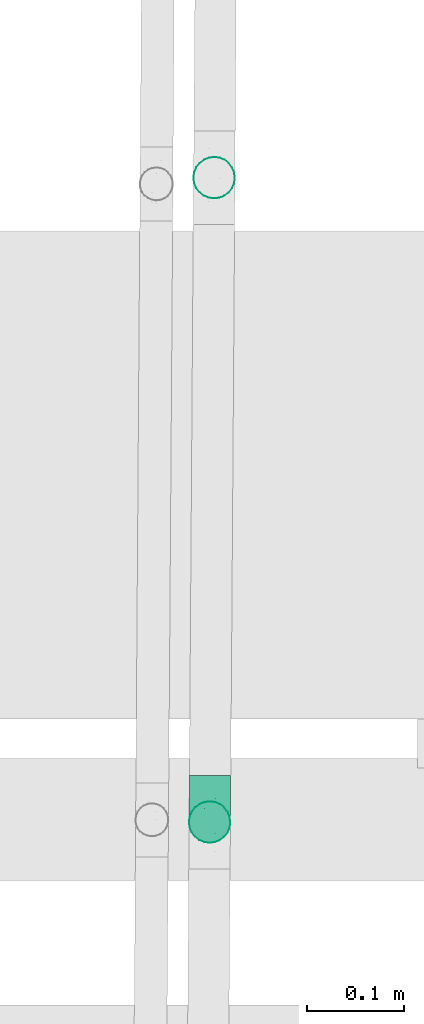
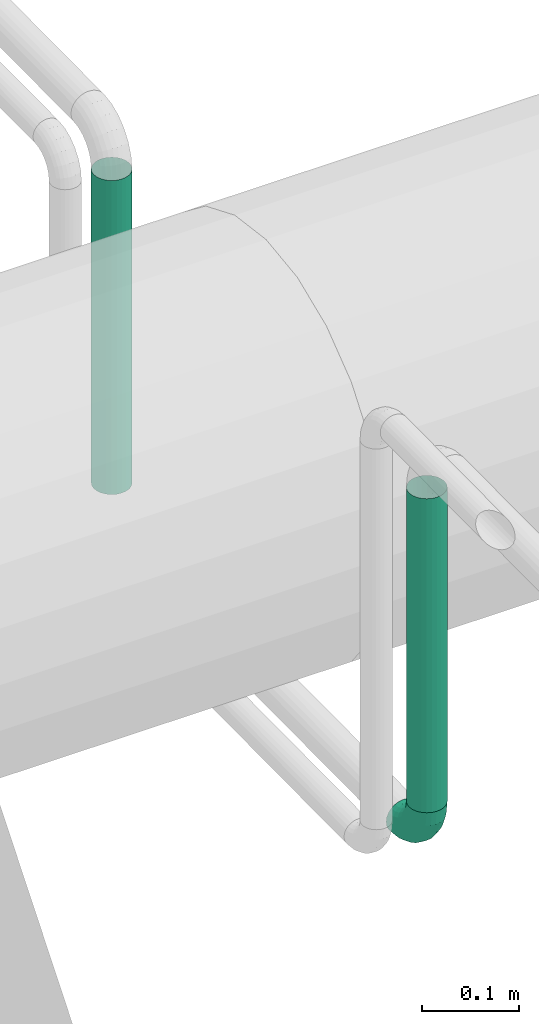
# One storey, part 169 of 374: 3 flow segments.
"""IFC2X3 building model written with IfcOpenShell, lengths in metres."""

from ifc_helpers import new_model, si_unit, direction, origin, place, context, subcontext, project, spatial, open_shell, surface_model, source, transform, mapped, element, save


model = new_model("IFC2X3")

# Units and contexts
model_context = context("Model", 3, precision=1e-05, world=origin(), true_north=direction((-0.4480736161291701, 0.8939966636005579)))
body_context = subcontext(model_context, "Body", "Model", "MODEL_VIEW")
ifc_project = project(units=[si_unit("LENGTHUNIT", "METRE"), si_unit("AREAUNIT", "SQUARE_METRE"), si_unit("VOLUMEUNIT", "CUBIC_METRE"), si_unit("PLANEANGLEUNIT", "RADIAN"), si_unit("THERMODYNAMICTEMPERATUREUNIT", "KELVIN"), si_unit("MASSUNIT", "GRAM", prefix="KILO"), si_unit("TIMEUNIT", "SECOND")], contexts=[model_context])

# Site, building, storey
site_placement = place(None, origin())
site = spatial("IfcSite", under=ifc_project, at=site_placement, Name="Site 1", CompositionType="ELEMENT")
building_placement = place(site_placement, origin())
building = spatial("IfcBuilding", under=site, at=building_placement, Name="Undefined", CompositionType="ELEMENT")
storey_placement = place(building_placement, origin())
storey = spatial("IfcBuildingStorey", under=building, at=storey_placement, Name="Rez de chauss\x8ee", CompositionType="ELEMENT", Elevation=0.0)

# Flow segments
shared_shape_1 = source(origin(), body_context, "Body", "SurfaceModel", [
    surface_model("IfcFaceBasedSurfaceModel", [(0.01806482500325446, 7.105427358e-15, 0.0), (0.017970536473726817, 0.005533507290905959, 0.0), (9.428852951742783e-05, 0.005533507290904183, 1.776356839e-15), (0.0, 0.0, 0.0), (-0.017172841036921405, 0.00613233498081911, -0.004587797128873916), (-0.01744928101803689, 0.0006051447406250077, -0.004636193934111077), (-0.03265412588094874, 0.007289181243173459, -0.013450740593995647), (-0.0330938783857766, 0.0017741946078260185, -0.013592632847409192), (-0.045294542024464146, 0.008925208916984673, -0.02598483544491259), (-0.045867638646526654, 0.0034274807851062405, -0.02625895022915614), (-0.054232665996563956, 0.010928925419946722, -0.041335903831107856), (-0.05490005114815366, 0.005452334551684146, -0.04177195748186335), (-0.05885937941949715, 0.013163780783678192, -0.05845779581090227), (-0.059575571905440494, 0.007710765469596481, -0.05907446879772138), (0.01769409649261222, 0.010875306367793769, -0.0014203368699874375), (0.00037072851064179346, 0.010875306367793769, -0.0014203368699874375), (-0.016362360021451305, 0.011455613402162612, -0.005866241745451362), (-0.03136483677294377, 0.012576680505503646, -0.014455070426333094), (-0.04361430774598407, 0.014162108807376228, -0.026601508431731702), (-0.05227599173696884, 0.016103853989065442, -0.0414777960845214), (-0.05675960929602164, 0.018269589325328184, -0.05807013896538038), (0.017254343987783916, 0.015661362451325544, -0.0041642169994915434), (0.0008104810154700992, 0.015661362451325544, -0.004164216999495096), (-0.01507307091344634, 0.016212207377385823, -0.008384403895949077), (-0.029313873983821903, 0.01727635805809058, -0.016537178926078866), (-0.04094144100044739, 0.01878129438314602, -0.02806694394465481), (-0.049163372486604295, 0.02062445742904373, -0.042187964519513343), (-0.05341935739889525, 0.02268023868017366, -0.05793791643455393), (0.016681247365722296, 0.01956551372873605, -0.008044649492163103), (0.001383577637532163, 0.01956551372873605, -0.008044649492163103), (-0.01339283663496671, 0.020077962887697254, -0.011970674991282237), (-0.026641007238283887, 0.021067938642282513, -0.01955517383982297), (-0.03745809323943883, 0.02246797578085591, -0.03028127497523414), (-0.04510692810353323, 0.0241826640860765, -0.04341801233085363), (-0.04906625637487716, 0.026095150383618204, -0.05807013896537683), (0.016013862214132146, 0.022321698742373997, -0.012797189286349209), (0.0020509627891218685, 0.022321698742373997, -0.012797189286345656), (-0.011436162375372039, 0.02278943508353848, -0.016380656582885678), (-0.023528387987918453, 0.02369303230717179, -0.023303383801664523), (-0.03340164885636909, 0.024970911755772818, -0.03309359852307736), (-0.040383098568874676, 0.026535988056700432, -0.04508411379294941), (-0.04399696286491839, 0.028281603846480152, -0.05845779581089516), (0.015297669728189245, 0.023742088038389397, -0.018097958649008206), (0.00276715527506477, 0.023742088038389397, -0.018097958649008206), (-0.009336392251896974, 0.024161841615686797, -0.021313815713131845), (-0.02018813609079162, 0.02497274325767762, -0.0275263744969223), (-0.029048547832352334, 0.02611953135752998, -0.03631225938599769), (-0.03531380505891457, 0.027524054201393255, -0.04707272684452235), (-0.0385569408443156, 0.02909059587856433, -0.05907446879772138), (0.014581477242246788, 0.023729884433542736, -0.02358571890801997), (0.0034833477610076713, 0.023729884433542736, -0.02358571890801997), (-0.007236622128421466, 0.024101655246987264, -0.026433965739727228), (-0.016847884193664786, 0.02481986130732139, -0.03193635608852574), (-0.02469544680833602, 0.02583555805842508, -0.03971791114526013), (-0.0302445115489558, 0.027079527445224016, -0.04924833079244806), (-0.03311691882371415, 0.02846699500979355, -0.059878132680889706), (0.013914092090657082, 0.02228591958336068, -0.02888648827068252), (0.004150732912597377, 0.022285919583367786, -0.028886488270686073), (-0.005279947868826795, 0.022612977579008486, -0.031392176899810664), (-0.013735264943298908, 0.023244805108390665, -0.03623279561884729), (-0.020639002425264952, 0.02413834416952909, -0.04307846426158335), (-0.025520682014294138, 0.025232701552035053, -0.051462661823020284), (-0.028047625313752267, 0.026453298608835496, -0.060814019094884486), (0.013340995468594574, 0.01950859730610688, -0.03363902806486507), (0.0047238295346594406, 0.01950859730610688, -0.033639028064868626), (-0.0035997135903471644, 0.019797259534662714, -0.035850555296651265), (-0.011062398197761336, 0.0203549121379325, -0.04012289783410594), (-0.017155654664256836, 0.021143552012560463, -0.04616490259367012), (-0.02146423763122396, 0.022109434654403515, -0.05356481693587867), (-0.02369452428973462, 0.023186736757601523, -0.06181834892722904), (0.012901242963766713, 0.015587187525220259, -0.037519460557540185), (0.005163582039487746, 0.015587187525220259, -0.03751946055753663), (-0.0023104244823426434, 0.015846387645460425, -0.03950526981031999), (-0.009011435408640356, 0.016347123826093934, -0.043341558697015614), (-0.01448278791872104, 0.017055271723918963, -0.048766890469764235), (-0.018351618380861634, 0.017922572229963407, -0.05541153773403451), (-0.02035427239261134, 0.018889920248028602, -0.06282267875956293), (0.012624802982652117, 0.010788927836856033, -0.040263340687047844), (0.005440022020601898, 0.010788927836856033, -0.0402633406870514), (-0.0014999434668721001, 0.011029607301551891, -0.04210725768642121), (-0.007722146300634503, 0.01149456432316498, -0.045669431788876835), (-0.012802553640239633, 0.012152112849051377, -0.05070710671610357), (-0.0163949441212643, 0.012957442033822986, -0.056876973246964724), (-0.018254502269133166, 0.013855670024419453, -0.06375856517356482), (0.012530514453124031, 0.005440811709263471, -0.041683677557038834), (0.005534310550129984, 0.0054408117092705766, -0.041683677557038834), (-0.0012235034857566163, 0.005675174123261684, -0.04347919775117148), (-0.007282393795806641, 0.006127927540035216, -0.046947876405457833), (-0.012229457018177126, 0.0067682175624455, -0.05185332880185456), (-0.015727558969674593, 0.007552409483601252, -0.05786125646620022), (-0.01753830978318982, 0.008427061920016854, -0.0645622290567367), (0.012624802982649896, -9.26955816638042e-05, -0.04168367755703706), (0.005440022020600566, -9.269558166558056e-05, -0.04168367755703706), (-0.0014999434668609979, 0.00014798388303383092, -0.0435275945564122), (-0.007722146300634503, 0.0006129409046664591, -0.047089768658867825), (-0.012802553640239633, 0.001270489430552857, -0.05212744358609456), (-0.0163949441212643, 0.002075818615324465, -0.058297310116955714), (-0.018254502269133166, 0.0029740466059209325, -0.06517890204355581), (0.012901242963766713, -0.005434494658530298, -0.0402633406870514), (0.005163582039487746, -0.005434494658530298, -0.040263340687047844), (-0.0023104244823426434, -0.005175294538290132, -0.0422491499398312), (-0.009011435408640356, -0.004674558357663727, -0.046085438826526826), (-0.01448278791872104, -0.0039664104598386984, -0.051510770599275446), (-0.018351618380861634, -0.0030991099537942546, -0.05815541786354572), (-0.02035427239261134, -0.0021317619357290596, -0.06556655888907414), (0.013340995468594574, -0.010220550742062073, -0.03751946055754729), (0.0047238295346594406, -0.010220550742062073, -0.03751946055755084), (-0.0035997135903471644, -0.009931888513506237, -0.03973098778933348), (-0.011062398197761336, -0.009374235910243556, -0.04400333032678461), (-0.017155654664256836, -0.00858559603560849, -0.05004533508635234), (-0.02146423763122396, -0.007619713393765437, -0.057445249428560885), (-0.02369452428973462, -0.006542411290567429, -0.06569878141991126), (0.013914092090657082, -0.01412470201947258, -0.03363902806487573), (0.004150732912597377, -0.014124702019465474, -0.033639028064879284), (-0.005279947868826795, -0.013797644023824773, -0.036144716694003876), (-0.013735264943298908, -0.013165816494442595, -0.0409853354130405), (-0.020639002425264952, -0.012272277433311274, -0.04783100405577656), (-0.025520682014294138, -0.011177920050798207, -0.05621520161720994), (-0.028047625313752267, -0.009957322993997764, -0.0655665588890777), (0.014581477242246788, -0.01688088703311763, -0.028886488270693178), (0.0034833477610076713, -0.01688088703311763, -0.028886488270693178), (-0.007236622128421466, -0.016509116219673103, -0.031734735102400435), (-0.016847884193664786, -0.015790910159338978, -0.03723712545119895), (-0.02469544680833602, -0.014775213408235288, -0.04501868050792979), (-0.0302445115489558, -0.01353124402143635, -0.054549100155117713), (-0.03311691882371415, -0.012143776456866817, -0.06517890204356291), (0.015297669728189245, -0.01830127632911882, -0.02358571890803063), (0.00276715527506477, -0.01830127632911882, -0.02358571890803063), (-0.009336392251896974, -0.01788152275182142, -0.026801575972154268), (-0.02018813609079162, -0.017070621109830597, -0.033014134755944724), (-0.029048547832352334, -0.01592383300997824, -0.04180001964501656), (-0.03531380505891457, -0.014519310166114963, -0.05256048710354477), (-0.0385569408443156, -0.012952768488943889, -0.06456222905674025), (0.016013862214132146, -0.01828907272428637, -0.018097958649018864), (0.0020509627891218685, -0.01828907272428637, -0.018097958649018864), (-0.011436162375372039, -0.01782133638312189, -0.021681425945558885), (-0.023528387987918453, -0.016917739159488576, -0.02860415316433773), (-0.03340164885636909, -0.01563985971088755, -0.038394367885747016), (-0.040383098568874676, -0.014074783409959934, -0.05038488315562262), (-0.04399696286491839, -0.012329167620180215, -0.06375856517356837), (0.016681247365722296, -0.01684510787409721, -0.012797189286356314), (0.001383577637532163, -0.01684510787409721, -0.012797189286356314), (-0.01339283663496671, -0.016332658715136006, -0.01672321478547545), (-0.026641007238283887, -0.015342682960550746, -0.02430771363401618), (-0.03745809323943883, -0.01394264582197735, -0.03503381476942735), (-0.04510692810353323, -0.01222795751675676, -0.04817055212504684), (-0.04906625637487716, -0.010315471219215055, -0.06282267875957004), (0.017254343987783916, -0.014067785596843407, -0.008044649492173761), (0.0008104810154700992, -0.014067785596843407, -0.008044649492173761), (-0.01507307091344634, -0.013516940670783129, -0.012264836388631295), (-0.029313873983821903, -0.012452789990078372, -0.020417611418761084), (-0.04094144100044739, -0.010947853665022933, -0.03194737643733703), (-0.049163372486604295, -0.009104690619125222, -0.04606839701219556), (-0.05341935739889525, -0.007048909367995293, -0.06181834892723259), (0.01769409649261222, -0.010146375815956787, -0.004164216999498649), (0.00037072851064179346, -0.010146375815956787, -0.004164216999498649), (-0.016362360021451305, -0.009566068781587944, -0.008610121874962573), (-0.03136483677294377, -0.008445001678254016, -0.017198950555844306), (-0.04361430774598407, -0.006859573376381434, -0.029345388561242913), (-0.05227599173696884, -0.00491782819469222, -0.04422167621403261), (-0.05675960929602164, -0.002752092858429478, -0.060814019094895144), (0.017970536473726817, -0.0053481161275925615, -0.0014203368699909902), (9.428852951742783e-05, -0.0053481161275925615, -0.0014203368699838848), (-0.017172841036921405, -0.004749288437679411, -0.006008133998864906), (-0.03265412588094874, -0.0035924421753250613, -0.014871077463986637), (-0.045294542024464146, -0.001956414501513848, -0.02740517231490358), (-0.05423266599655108, 4.730200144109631e-05, -0.042756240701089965), (-0.05885937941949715, 0.002282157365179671, -0.05987813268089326)], [open_shell([[[0, 1, 2, 3]], [[3, 2, 4, 5]], [[5, 4, 6, 7]], [[7, 6, 8, 9]], [[9, 8, 10, 11]], [[11, 10, 12, 13]], [[1, 14, 15, 2]], [[2, 15, 16, 4]], [[4, 16, 17, 6]], [[6, 17, 18, 8]], [[8, 18, 19, 10]], [[10, 19, 20, 12]], [[14, 21, 22, 15]], [[15, 22, 23, 16]], [[16, 23, 24, 17]], [[17, 24, 25, 18]], [[18, 25, 26, 19]], [[19, 26, 27, 20]], [[21, 28, 29, 22]], [[22, 29, 30, 23]], [[23, 30, 31, 24]], [[24, 31, 32, 25]], [[25, 32, 33, 26]], [[26, 33, 34, 27]], [[28, 35, 36, 29]], [[29, 36, 37, 30]], [[30, 37, 38, 31]], [[31, 38, 39, 32]], [[32, 39, 40, 33]], [[33, 40, 41, 34]], [[35, 42, 43, 36]], [[36, 43, 44, 37]], [[37, 44, 45, 38]], [[38, 45, 46, 39]], [[39, 46, 47, 40]], [[40, 47, 48, 41]], [[42, 49, 50, 43]], [[43, 50, 51, 44]], [[44, 51, 52, 45]], [[45, 52, 53, 46]], [[46, 53, 54, 47]], [[47, 54, 55, 48]], [[49, 56, 57, 50]], [[50, 57, 58, 51]], [[51, 58, 59, 52]], [[52, 59, 60, 53]], [[53, 60, 61, 54]], [[54, 61, 62, 55]], [[56, 63, 64, 57]], [[57, 64, 65, 58]], [[58, 65, 66, 59]], [[59, 66, 67, 60]], [[60, 67, 68, 61]], [[61, 68, 69, 62]], [[63, 70, 71, 64]], [[64, 71, 72, 65]], [[65, 72, 73, 66]], [[66, 73, 74, 67]], [[67, 74, 75, 68]], [[68, 75, 76, 69]], [[70, 77, 78, 71]], [[71, 78, 79, 72]], [[72, 79, 80, 73]], [[73, 80, 81, 74]], [[74, 81, 82, 75]], [[75, 82, 83, 76]], [[77, 84, 85, 78]], [[78, 85, 86, 79]], [[79, 86, 87, 80]], [[80, 87, 88, 81]], [[81, 88, 89, 82]], [[82, 89, 90, 83]], [[84, 91, 92, 85]], [[85, 92, 93, 86]], [[86, 93, 94, 87]], [[87, 94, 95, 88]], [[88, 95, 96, 89]], [[89, 96, 97, 90]], [[91, 98, 99, 92]], [[92, 99, 100, 93]], [[93, 100, 101, 94]], [[94, 101, 102, 95]], [[95, 102, 103, 96]], [[96, 103, 104, 97]], [[98, 105, 106, 99]], [[99, 106, 107, 100]], [[100, 107, 108, 101]], [[101, 108, 109, 102]], [[102, 109, 110, 103]], [[103, 110, 111, 104]], [[105, 112, 113, 106]], [[106, 113, 114, 107]], [[107, 114, 115, 108]], [[108, 115, 116, 109]], [[109, 116, 117, 110]], [[110, 117, 118, 111]], [[112, 119, 120, 113]], [[113, 120, 121, 114]], [[114, 121, 122, 115]], [[115, 122, 123, 116]], [[116, 123, 124, 117]], [[117, 124, 125, 118]], [[119, 126, 127, 120]], [[120, 127, 128, 121]], [[121, 128, 129, 122]], [[122, 129, 130, 123]], [[123, 130, 131, 124]], [[124, 131, 132, 125]], [[126, 133, 134, 127]], [[127, 134, 135, 128]], [[128, 135, 136, 129]], [[129, 136, 137, 130]], [[130, 137, 138, 131]], [[131, 138, 139, 132]], [[133, 140, 141, 134]], [[134, 141, 142, 135]], [[135, 142, 143, 136]], [[136, 143, 144, 137]], [[137, 144, 145, 138]], [[138, 145, 146, 139]], [[140, 147, 148, 141]], [[141, 148, 149, 142]], [[142, 149, 150, 143]], [[143, 150, 151, 144]], [[144, 151, 152, 145]], [[145, 152, 153, 146]], [[147, 154, 155, 148]], [[148, 155, 156, 149]], [[149, 156, 157, 150]], [[150, 157, 158, 151]], [[151, 158, 159, 152]], [[152, 159, 160, 153]], [[154, 161, 162, 155]], [[155, 162, 163, 156]], [[156, 163, 164, 157]], [[157, 164, 165, 158]], [[158, 165, 166, 159]], [[159, 166, 167, 160]], [[161, 0, 3, 162]], [[162, 3, 5, 163]], [[163, 5, 7, 164]], [[164, 7, 9, 165]], [[165, 9, 11, 166]], [[166, 11, 13, 167]]])]),
])
flow_segment_1_placement = place(storey_placement, origin())
element("IfcFlowSegment", 1, at=flow_segment_1_placement, inside=storey, Name="Tube coudé", ObjectType="Tube coudé", context=body_context, shape_type="MappedRepresentation", body=[
    mapped(shared_shape_1, transform((52.92217814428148, 17.388728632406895, 3.493217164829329), x_axis=(0.006921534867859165, 0.991420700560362, -0.1305261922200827), y_axis=(0.991682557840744, 0.009970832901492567, 0.1283210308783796), z_axis=(0.12852158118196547, -0.13032872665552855, -0.9831056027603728))),
])
shared_shape_2 = source(origin(), body_context, "Body", "SurfaceModel", [
    surface_model("IfcFaceBasedSurfaceModel", [(0.0, 0.005534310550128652, 0.0), (0.0, 0.0, 0.0), (0.39708119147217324, 0.0, 7.105427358e-15), (0.39708119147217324, 0.005534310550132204, 0.0), (0.0, -0.00534573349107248, -0.0014323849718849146), (0.39708119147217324, -0.005345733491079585, -0.00143238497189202), (0.0, -0.010138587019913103, -0.004199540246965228), (0.39708119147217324, -0.010138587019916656, -0.004199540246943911), (0.0, -0.01405193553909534, -0.008112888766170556), (0.39708119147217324, -0.014051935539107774, -0.008112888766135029), (0.0, -0.016819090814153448, -0.012905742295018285), (0.39708119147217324, -0.016819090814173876, -0.012905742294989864), (0.0, -0.018251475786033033, -0.018251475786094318), (0.39708119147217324, -0.01825147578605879, -0.01825147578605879), (0.0, -0.0182514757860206, -0.02378578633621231), (0.39708119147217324, -0.01825147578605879, -0.023785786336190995), (0.0, -0.01681909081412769, -0.029131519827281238), (0.39708119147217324, -0.016819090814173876, -0.029131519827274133), (0.0, -0.014051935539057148, -0.03392437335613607), (0.39708119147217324, -0.014051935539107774, -0.033924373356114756), (0.0, -0.010138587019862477, -0.037837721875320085), (0.39708119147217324, -0.010138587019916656, -0.03783772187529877), (0.0, -0.005345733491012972, -0.040604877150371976), (0.39708119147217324, -0.005345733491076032, -0.040604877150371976), (0.0, 6.4837024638e-14, -0.042037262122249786), (0.39708119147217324, 0.0, -0.042037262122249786), (0.0, 0.005534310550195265, -0.04203726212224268), (0.39708119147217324, 0.005534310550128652, -0.042037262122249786), (0.0, 0.010880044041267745, -0.04060487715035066), (0.39708119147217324, 0.010880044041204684, -0.04060487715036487), (0.0, 0.01567289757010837, -0.03783772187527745), (0.39708119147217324, 0.01567289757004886, -0.03783772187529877), (0.0, 0.019586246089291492, -0.033924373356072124), (0.39708119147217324, 0.019586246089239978, -0.03392437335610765), (0.0, 0.0223534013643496, -0.029131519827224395), (0.39708119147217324, 0.02235340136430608, -0.029131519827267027), (0.0, 0.02378578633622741, -0.023785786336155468), (0.39708119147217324, 0.023785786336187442, -0.023785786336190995), (0.0, 0.023785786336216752, -0.01825147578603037), (0.39708119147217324, 0.023785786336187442, -0.01825147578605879), (0.0, 0.022353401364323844, -0.012905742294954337), (0.39708119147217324, 0.022353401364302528, -0.012905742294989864), (0.0, 0.019586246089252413, -0.008112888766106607), (0.39708119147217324, 0.019586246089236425, -0.008112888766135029), (0.0, 0.015672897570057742, -0.004199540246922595), (0.39708119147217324, 0.01567289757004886, -0.004199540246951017), (0.0, 0.010880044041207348, -0.0014323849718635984), (0.39708119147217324, 0.010880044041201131, -0.00143238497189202)], [open_shell([[[0, 1, 2, 3]], [[1, 4, 5, 2]], [[4, 6, 7, 5]], [[6, 8, 9, 7]], [[8, 10, 11, 9]], [[10, 12, 13, 11]], [[12, 14, 15, 13]], [[14, 16, 17, 15]], [[16, 18, 19, 17]], [[18, 20, 21, 19]], [[20, 22, 23, 21]], [[22, 24, 25, 23]], [[24, 26, 27, 25]], [[26, 28, 29, 27]], [[28, 30, 31, 29]], [[30, 32, 33, 31]], [[32, 34, 35, 33]], [[34, 36, 37, 35]], [[36, 38, 39, 37]], [[38, 40, 41, 39]], [[40, 42, 43, 41]], [[42, 44, 45, 43]], [[44, 46, 47, 45]], [[46, 0, 3, 47]]])]),
])
flow_segment_2_placement = place(storey_placement, origin())
element("IfcFlowSegment", 2, at=flow_segment_2_placement, inside=storey, Name="Tube acier d'après DIN 2448", ObjectType="Tube acier d'après DIN 2448", context=body_context, shape_type="MappedRepresentation", body=[
    mapped(shared_shape_2, transform((52.947020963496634, 18.01391462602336, 3.957140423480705), x_axis=(0.0, 0.0, -1.0), y_axis=(0.1374445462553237, 0.9905094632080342, 0.0), z_axis=(0.9905094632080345, -0.13744454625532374, 0.0))),
])
flow_segment_3_placement = place(storey_placement, origin())
element("IfcFlowSegment", 3, at=flow_segment_3_placement, inside=storey, Name="Tube acier d'après DIN 2448", ObjectType="Tube acier d'après DIN 2448", context=body_context, shape_type="MappedRepresentation", body=[
    mapped(shared_shape_2, transform((52.90145264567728, 17.353295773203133, 3.560059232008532), x_axis=(0.0, 0.0, 1.0), y_axis=(-0.12360147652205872, 0.9923319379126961, 0.0), z_axis=(-0.9923319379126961, -0.12360147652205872, 0.0))),
])

save(model, "model.ifc")
